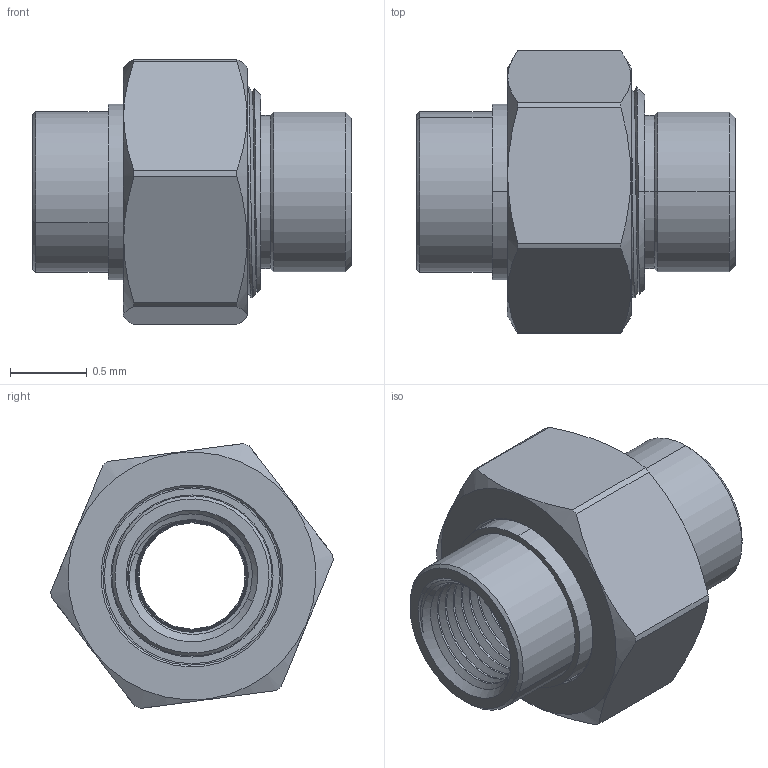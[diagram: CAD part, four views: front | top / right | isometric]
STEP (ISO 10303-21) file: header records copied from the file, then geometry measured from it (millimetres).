
FILE_DESCRIPTION(('Open CASCADE Model'),'2;1');
FILE_NAME('Open CASCADE Shape Model','2022-06-28T15:49:54',('Author'),( 'Open CASCADE'),'Open CASCADE STEP processor 7.3','Open CASCADE 7.3' ,'Unknown');
FILE_SCHEMA(('AUTOMOTIVE_DESIGN { 1 0 10303 214 1 1 1 1 }'));
Length unit declared in the file: millimetre
Products named in the file (6): Open CASCADE STEP translator 7.3 1; Open CASCADE STEP translator 7.3 1.1; Open CASCADE STEP translator 7.3 1.2; Open CASCADE STEP translator 7.3 1.3; Open CASCADE STEP translator 7.3 1.4; Open CASCADE STEP translator 7.3 1.5
Assembly tree (5 placements, depth 2):
  Open CASCADE STEP translator 7.3 1
    Open CASCADE STEP translator 7.3 1.1
    Open CASCADE STEP translator 7.3 1.2
    Open CASCADE STEP translator 7.3 1.3
    Open CASCADE STEP translator 7.3 1.4
    Open CASCADE STEP translator 7.3 1.5
Bounding box: 2.08 x 1.84 x 1.73 mm (x, y, z)
Volume: 2 mm3; surface area: 36.3 mm2
Topology: 5 solids, 5 shells, 169 faces, 430 edges, 277 vertices
Faces by surface type: cone 72, cylinder 62, plane 25, bspline 8, torus 2
Entity records: 36774 total; most frequent: CARTESIAN_POINT 28959, DIRECTION 1189, ORIENTED_EDGE 860, PCURVE 860, DEFINITIONAL_REPRESENTATION 860, LINE 595, VECTOR 595, B_SPLINE_CURVE_WITH_KNOTS 462
